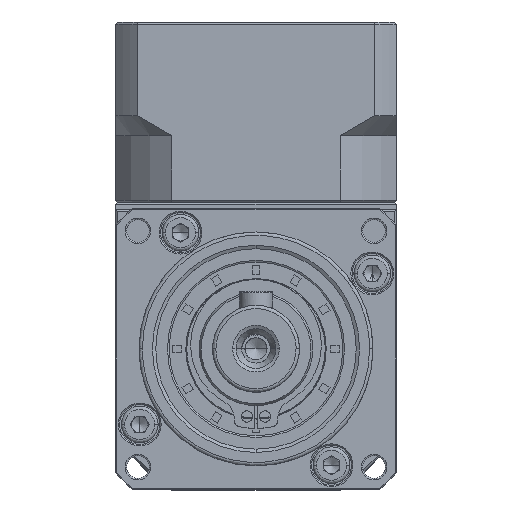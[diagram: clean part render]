
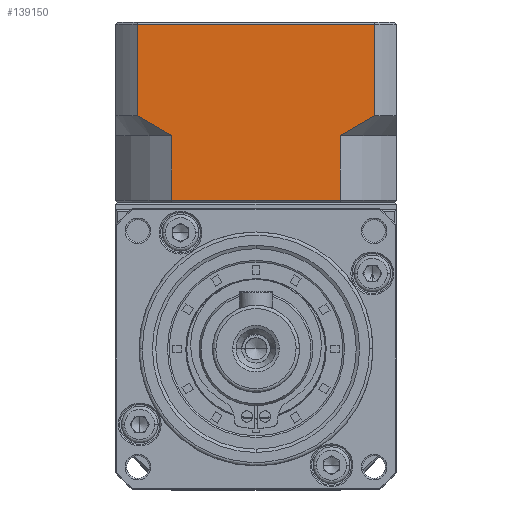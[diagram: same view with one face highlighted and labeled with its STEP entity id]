
A CAD part, top view. The second image highlights one B-rep face of the part: STEP entity #139150.
In plain terms, the highlighted planar face has unit normal (0, 0, 1).
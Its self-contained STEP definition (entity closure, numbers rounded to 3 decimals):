
#7904 = ORIENTED_EDGE ( 'NONE', *, *, #104614, .T. ) ;
#13112 = VECTOR ( 'NONE', #105522, 1000. ) ;
#13512 = EDGE_CURVE ( 'NONE', #91269, #127159, #18956, .T. ) ;
#15785 = CARTESIAN_POINT ( 'NONE',  ( -34.905, 25.52, 115.231 ) ) ;
#16891 = DIRECTION ( 'NONE',  ( 0., -1., 0. ) ) ;
#18259 = CARTESIAN_POINT ( 'NONE',  ( -7.901, 36.129, 115.231 ) ) ;
#18953 = PLANE ( 'NONE',  #130959 ) ;
#18956 = B_SPLINE_CURVE_WITH_KNOTS ( 'NONE', 3,
 ( #108858, #18259, #74748, #41041 ),
 .UNSPECIFIED., .F., .F.,
 ( 4, 4 ),
 ( 0., 0.006 ),
 .UNSPECIFIED. ) ;
#19983 = CARTESIAN_POINT ( 'NONE',  ( -4.53, 25.22, 115.231 ) ) ;
#20224 = VERTEX_POINT ( 'NONE', #41297 ) ;
#20321 = ORIENTED_EDGE ( 'NONE', *, *, #13512, .T. ) ;
#23006 = LINE ( 'NONE', #118425, #136471 ) ;
#23072 = EDGE_CURVE ( 'NONE', #45247, #70430, #141001, .T. ) ;
#28905 = CARTESIAN_POINT ( 'NONE',  ( -34.905, 35.22, 115.231 ) ) ;
#30209 = CARTESIAN_POINT ( 'NONE',  ( -9.666, 25.52, 115.231 ) ) ;
#30439 = CARTESIAN_POINT ( 'NONE',  ( -4.53, 38.22, 115.231 ) ) ;
#31623 = VERTEX_POINT ( 'NONE', #15785 ) ;
#36137 = EDGE_CURVE ( 'NONE', #70430, #31623, #104535, .T. ) ;
#37690 = CARTESIAN_POINT ( 'NONE',  ( -9.666, 35.22, 115.231 ) ) ;
#38875 = CARTESIAN_POINT ( 'NONE',  ( -36.67, 36.129, 115.231 ) ) ;
#39374 = DIRECTION ( 'NONE',  ( 0., -1., 0. ) ) ;
#41041 = CARTESIAN_POINT ( 'NONE',  ( -4.53, 38.22, 115.231 ) ) ;
#41297 = CARTESIAN_POINT ( 'NONE',  ( -4.53, 51.92, 115.231 ) ) ;
#42695 = DIRECTION ( 'NONE',  ( 0., 0., 1. ) ) ;
#43532 = CARTESIAN_POINT ( 'NONE',  ( -1.285, 25.52, 115.231 ) ) ;
#44303 = VECTOR ( 'NONE', #39374, 1000. ) ;
#45139 = VECTOR ( 'NONE', #87832, 1000. ) ;
#45247 = VERTEX_POINT ( 'NONE', #118817 ) ;
#46357 = CARTESIAN_POINT ( 'NONE',  ( -34.905, 35.22, 115.231 ) ) ;
#54933 = DIRECTION ( 'NONE',  ( -1., 0., 0. ) ) ;
#57401 = ORIENTED_EDGE ( 'NONE', *, *, #76946, .F. ) ;
#62191 = CARTESIAN_POINT ( 'NONE',  ( -34.905, 25.22, 115.231 ) ) ;
#63610 = VERTEX_POINT ( 'NONE', #30209 ) ;
#69754 = ORIENTED_EDGE ( 'NONE', *, *, #84499, .F. ) ;
#70430 = VERTEX_POINT ( 'NONE', #46357 ) ;
#71477 = LINE ( 'NONE', #127428, #128242 ) ;
#73176 = ORIENTED_EDGE ( 'NONE', *, *, #36137, .T. ) ;
#73384 = LINE ( 'NONE', #127871, #13112 ) ;
#74026 = CARTESIAN_POINT ( 'NONE',  ( -38.373, 37.143, 115.231 ) ) ;
#74748 = CARTESIAN_POINT ( 'NONE',  ( -6.197, 37.143, 115.231 ) ) ;
#75287 = LINE ( 'NONE', #19983, #45139 ) ;
#76946 = EDGE_CURVE ( 'NONE', #91269, #63610, #23006, .T. ) ;
#84499 = EDGE_CURVE ( 'NONE', #63610, #31623, #116230, .T. ) ;
#87832 = DIRECTION ( 'NONE',  ( 0., 1., 0. ) ) ;
#91269 = VERTEX_POINT ( 'NONE', #37690 ) ;
#96733 = CARTESIAN_POINT ( 'NONE',  ( -40.041, 38.22, 115.231 ) ) ;
#104535 = LINE ( 'NONE', #62191, #44303 ) ;
#104614 = EDGE_CURVE ( 'NONE', #127159, #20224, #75287, .T. ) ;
#104808 = FACE_OUTER_BOUND ( 'NONE', #117412, .T. ) ;
#105522 = DIRECTION ( 'NONE',  ( 0., -1., 0. ) ) ;
#108858 = CARTESIAN_POINT ( 'NONE',  ( -9.666, 35.22, 115.231 ) ) ;
#110526 = CARTESIAN_POINT ( 'NONE',  ( -1.285, 25.22, 115.231 ) ) ;
#114175 = EDGE_CURVE ( 'NONE', #117556, #45247, #73384, .T. ) ;
#116201 = CARTESIAN_POINT ( 'NONE',  ( -40.041, 51.92, 115.231 ) ) ;
#116230 = LINE ( 'NONE', #43532, #119774 ) ;
#117412 = EDGE_LOOP ( 'NONE', ( #126222, #145740, #73176, #69754, #57401, #20321, #7904, #125058 ) ) ;
#117556 = VERTEX_POINT ( 'NONE', #116201 ) ;
#118425 = CARTESIAN_POINT ( 'NONE',  ( -9.666, 5.055, 115.231 ) ) ;
#118817 = CARTESIAN_POINT ( 'NONE',  ( -40.041, 38.22, 115.231 ) ) ;
#119774 = VECTOR ( 'NONE', #54933, 1000. ) ;
#120970 = EDGE_CURVE ( 'NONE', #20224, #117556, #71477, .T. ) ;
#121920 = DIRECTION ( 'NONE',  ( -1., 0., 0. ) ) ;
#125058 = ORIENTED_EDGE ( 'NONE', *, *, #120970, .T. ) ;
#126222 = ORIENTED_EDGE ( 'NONE', *, *, #114175, .T. ) ;
#127159 = VERTEX_POINT ( 'NONE', #30439 ) ;
#127428 = CARTESIAN_POINT ( 'NONE',  ( -1.285, 51.92, 115.231 ) ) ;
#127871 = CARTESIAN_POINT ( 'NONE',  ( -40.041, 25.22, 115.231 ) ) ;
#128242 = VECTOR ( 'NONE', #138794, 1000. ) ;
#130959 = AXIS2_PLACEMENT_3D ( 'NONE', #110526, #42695, #121920 ) ;
#136471 = VECTOR ( 'NONE', #16891, 1000. ) ;
#138794 = DIRECTION ( 'NONE',  ( -1., 0., 0. ) ) ;
#139150 = ADVANCED_FACE ( 'NONE', ( #104808 ), #18953, .T. ) ;
#141001 = B_SPLINE_CURVE_WITH_KNOTS ( 'NONE', 3,
 ( #96733, #74026, #38875, #28905 ),
 .UNSPECIFIED., .F., .F.,
 ( 4, 4 ),
 ( 0., 0.006 ),
 .UNSPECIFIED. ) ;
#145740 = ORIENTED_EDGE ( 'NONE', *, *, #23072, .T. ) ;
